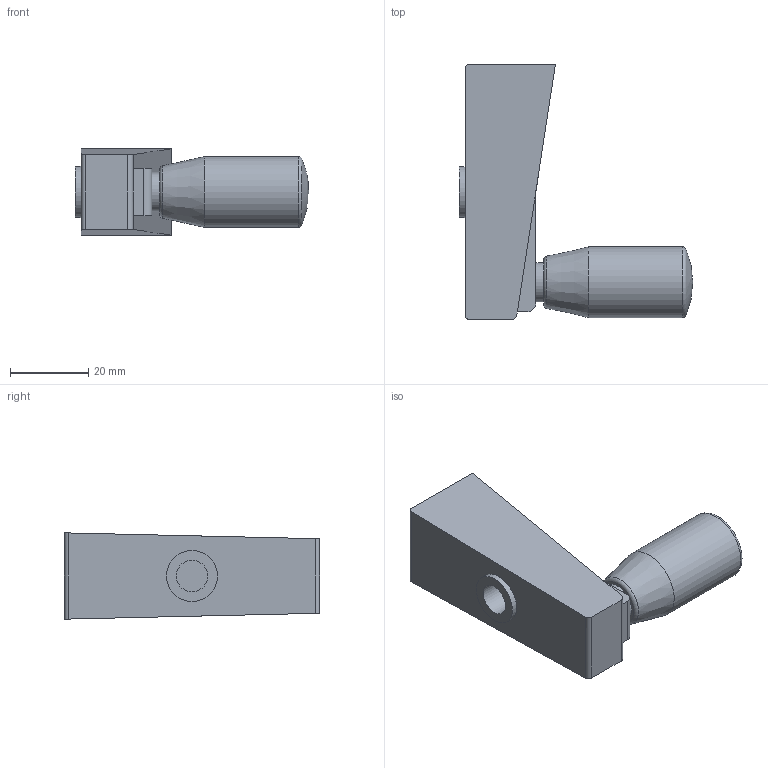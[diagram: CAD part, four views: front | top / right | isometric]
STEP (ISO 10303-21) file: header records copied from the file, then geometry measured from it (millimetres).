
FILE_DESCRIPTION( ( 'STEP AP203' ), '1' );
FILE_NAME( 'C:/Temp/Ganter_Step_05_03_2020/data/1_3/gn_510/Cranked handle GN 510-65-B8.stp', '2020-03-05T10:45:18', ( 'License CC BY-ND 4.0' ), ( 'CADENAS' ), ' ', 'PARTsolutions', ' ' );
FILE_SCHEMA( ( 'CONFIG_CONTROL_DESIGN' ) );
Length unit declared in the file: millimetre
Products named in the file (1): _Cranked handle GN 510-65-B8
Bounding box: 59.5 x 65 x 22 mm (x, y, z)
Volume: 33367.1 mm3; surface area: 8564.1 mm2
Topology: 1 solids, 1 shells, 28 faces, 67 edges, 44 vertices
Faces by surface type: plane 16, cylinder 8, torus 2, sphere 1, cone 1
Full cylindrical faces by diameter (mm): 8 x1, 10 x1, 13 x1, 18 x1
Entity records: 795 total; most frequent: DIRECTION 133, CARTESIAN_POINT 127, ORIENTED_EDGE 112, EDGE_CURVE 56, AXIS2_PLACEMENT_3D 48, VERTEX_POINT 42, EDGE_LOOP 39, LINE 37
